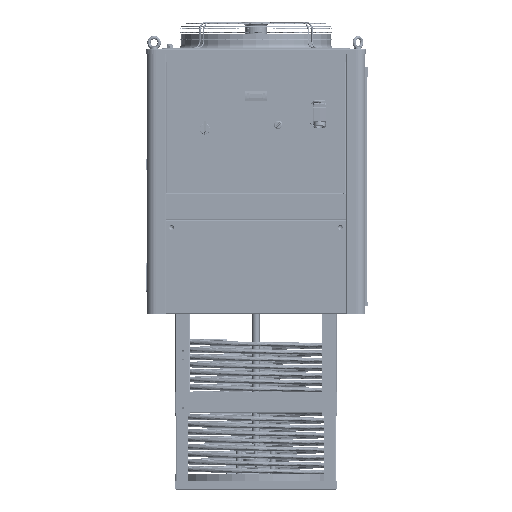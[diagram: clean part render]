
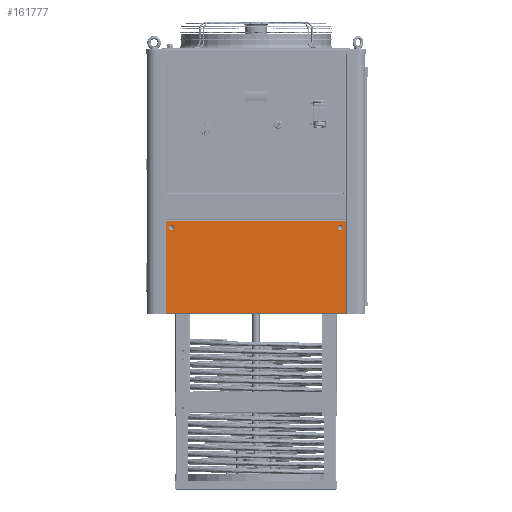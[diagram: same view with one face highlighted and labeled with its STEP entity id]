
A CAD part, left-side view. The second image highlights one B-rep face of the part: STEP entity #161777.
In plain terms, the highlighted planar face has unit normal (-1, 0, 0) as drawn and (0, 0, 1) by its records, which use the part's own axes.
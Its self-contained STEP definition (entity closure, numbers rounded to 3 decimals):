
#20442 = LINE ( 'NONE', #506508, #627183 ) ;
#49738 = CARTESIAN_POINT ( 'NONE',  ( -306.2, 158., 0. ) ) ;
#72520 = ORIENTED_EDGE ( 'NONE', *, *, #310943, .T. ) ;
#75551 = CARTESIAN_POINT ( 'NONE',  ( -306.2, 158., 0. ) ) ;
#75717 = CARTESIAN_POINT ( 'NONE',  ( -306.2, -158., 0. ) ) ;
#76034 = AXIS2_PLACEMENT_3D ( 'NONE', #561831, #574588, #474162 ) ;
#112846 = CARTESIAN_POINT ( 'NONE',  ( 0., 0., 0. ) ) ;
#120848 = DIRECTION ( 'NONE',  ( 1., 0., 0. ) ) ;
#127317 = CARTESIAN_POINT ( 'NONE',  ( -287.7, 143.056, 0. ) ) ;
#129918 = EDGE_CURVE ( 'NONE', #514370, #156282, #268528, .T. ) ;
#154785 = CARTESIAN_POINT ( 'NONE',  ( 306.2, -158., 0. ) ) ;
#156282 = VERTEX_POINT ( 'NONE', #385918 ) ;
#161777 = ADVANCED_FACE ( 'NONE', ( #641167, #197281, #394944 ), #261858, .T. ) ;
#165803 = VECTOR ( 'NONE', #478423, 1000. ) ;
#167220 = VECTOR ( 'NONE', #420097, 1000. ) ;
#178660 = DIRECTION ( 'NONE',  ( 0., -1., 0. ) ) ;
#179896 = ORIENTED_EDGE ( 'NONE', *, *, #129918, .T. ) ;
#182945 = ORIENTED_EDGE ( 'NONE', *, *, #286219, .T. ) ;
#194618 = CARTESIAN_POINT ( 'NONE',  ( 287.7, 134.5, 0. ) ) ;
#195600 = EDGE_LOOP ( 'NONE', ( #72520, #325415 ) ) ;
#196350 = AXIS2_PLACEMENT_3D ( 'NONE', #194618, #340497, #398676 ) ;
#197281 = FACE_BOUND ( 'NONE', #494064, .T. ) ;
#214443 = EDGE_CURVE ( 'NONE', #549168, #475101, #397036, .T. ) ;
#232063 = CARTESIAN_POINT ( 'NONE',  ( 306.2, -158., 0. ) ) ;
#239510 = VECTOR ( 'NONE', #333697, 1000. ) ;
#247985 = CARTESIAN_POINT ( 'NONE',  ( 287.7, 134.5, 0. ) ) ;
#260280 = CIRCLE ( 'NONE', #549743, 8.556 ) ;
#261858 = PLANE ( 'NONE',  #615884 ) ;
#268528 = CIRCLE ( 'NONE', #196350, 8.556 ) ;
#275951 = DIRECTION ( 'NONE',  ( 0., 0., -1. ) ) ;
#283824 = DIRECTION ( 'NONE',  ( 0., -1., 0. ) ) ;
#286219 = EDGE_CURVE ( 'NONE', #156282, #514370, #294638, .T. ) ;
#294638 = CIRCLE ( 'NONE', #429207, 8.556 ) ;
#310943 = EDGE_CURVE ( 'NONE', #475101, #549168, #260280, .T. ) ;
#325415 = ORIENTED_EDGE ( 'NONE', *, *, #214443, .T. ) ;
#327352 = EDGE_CURVE ( 'NONE', #430300, #413386, #332483, .T. ) ;
#332442 = DIRECTION ( 'NONE',  ( 0., 0., -1. ) ) ;
#332483 = LINE ( 'NONE', #232063, #167220 ) ;
#333697 = DIRECTION ( 'NONE',  ( -1., 0., 0. ) ) ;
#340497 = DIRECTION ( 'NONE',  ( 0., 0., -1. ) ) ;
#347839 = LINE ( 'NONE', #49738, #165803 ) ;
#359087 = EDGE_CURVE ( 'NONE', #431608, #430300, #20442, .T. ) ;
#365483 = DIRECTION ( 'NONE',  ( 1., 0., 0. ) ) ;
#385918 = CARTESIAN_POINT ( 'NONE',  ( 287.7, 143.056, 0. ) ) ;
#394944 = FACE_OUTER_BOUND ( 'NONE', #448050, .T. ) ;
#397036 = CIRCLE ( 'NONE', #76034, 8.556 ) ;
#398676 = DIRECTION ( 'NONE',  ( 0., -1., 0. ) ) ;
#407649 = ORIENTED_EDGE ( 'NONE', *, *, #570227, .T. ) ;
#413386 = VERTEX_POINT ( 'NONE', #475212 ) ;
#420097 = DIRECTION ( 'NONE',  ( 0., 1., 0. ) ) ;
#420422 = DIRECTION ( 'NONE',  ( 0., 0., 1. ) ) ;
#429207 = AXIS2_PLACEMENT_3D ( 'NONE', #247985, #332442, #283824 ) ;
#430300 = VERTEX_POINT ( 'NONE', #154785 ) ;
#431608 = VERTEX_POINT ( 'NONE', #75717 ) ;
#448050 = EDGE_LOOP ( 'NONE', ( #542512, #407649, #456579, #519025 ) ) ;
#456579 = ORIENTED_EDGE ( 'NONE', *, *, #359087, .T. ) ;
#474162 = DIRECTION ( 'NONE',  ( 0., -1., 0. ) ) ;
#475101 = VERTEX_POINT ( 'NONE', #494377 ) ;
#475212 = CARTESIAN_POINT ( 'NONE',  ( 306.2, 158., 0. ) ) ;
#478423 = DIRECTION ( 'NONE',  ( 0., -1., 0. ) ) ;
#494064 = EDGE_LOOP ( 'NONE', ( #179896, #182945 ) ) ;
#494377 = CARTESIAN_POINT ( 'NONE',  ( -287.7, 125.944, 0. ) ) ;
#506508 = CARTESIAN_POINT ( 'NONE',  ( -307.7, -158., 0. ) ) ;
#514244 = EDGE_CURVE ( 'NONE', #413386, #544848, #540820, .T. ) ;
#514370 = VERTEX_POINT ( 'NONE', #592631 ) ;
#519025 = ORIENTED_EDGE ( 'NONE', *, *, #327352, .T. ) ;
#540820 = LINE ( 'NONE', #586253, #239510 ) ;
#542512 = ORIENTED_EDGE ( 'NONE', *, *, #514244, .T. ) ;
#544848 = VERTEX_POINT ( 'NONE', #75551 ) ;
#549168 = VERTEX_POINT ( 'NONE', #127317 ) ;
#549743 = AXIS2_PLACEMENT_3D ( 'NONE', #561189, #275951, #178660 ) ;
#561189 = CARTESIAN_POINT ( 'NONE',  ( -287.7, 134.5, 0. ) ) ;
#561831 = CARTESIAN_POINT ( 'NONE',  ( -287.7, 134.5, 0. ) ) ;
#570227 = EDGE_CURVE ( 'NONE', #544848, #431608, #347839, .T. ) ;
#574588 = DIRECTION ( 'NONE',  ( 0., 0., -1. ) ) ;
#586253 = CARTESIAN_POINT ( 'NONE',  ( 307.7, 158., 0. ) ) ;
#592631 = CARTESIAN_POINT ( 'NONE',  ( 287.7, 125.944, 0. ) ) ;
#615884 = AXIS2_PLACEMENT_3D ( 'NONE', #112846, #420422, #365483 ) ;
#627183 = VECTOR ( 'NONE', #120848, 1000. ) ;
#641167 = FACE_BOUND ( 'NONE', #195600, .T. ) ;
